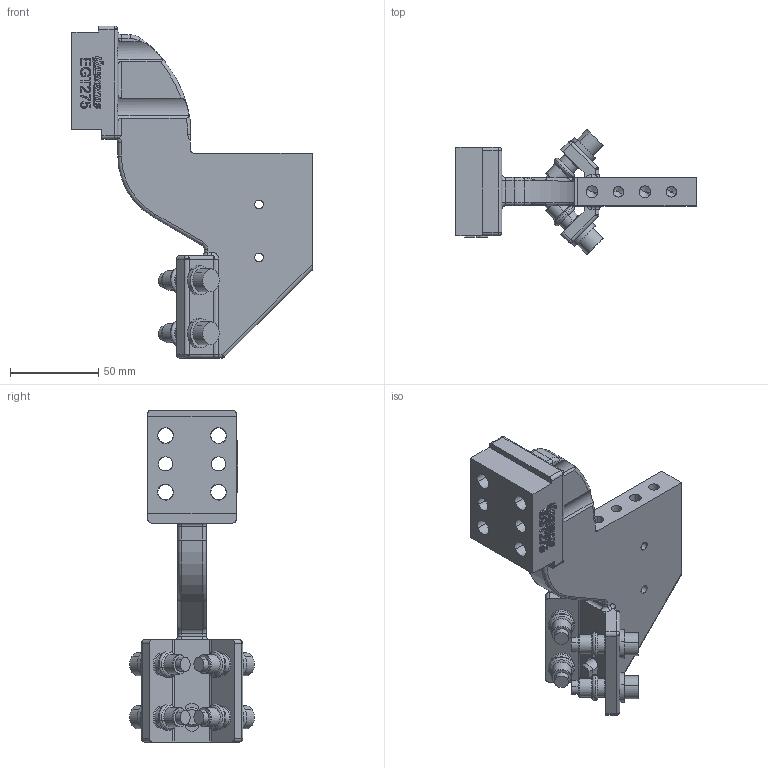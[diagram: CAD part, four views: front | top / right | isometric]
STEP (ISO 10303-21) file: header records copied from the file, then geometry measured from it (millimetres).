
FILE_DESCRIPTION(('CATIA V5 STEP Exchange'),'2;1');
FILE_NAME('\\Uns.com\share\技术部\03-技术资料\03-产品数模\02、抓具\STP\01-八角管抓具STP\连接件\EGT275.stp','2019-05-15T09:33:41+00:00',('none'),('none'),'CATIA Version 5 Release 21 GA (IN-10)','CATIA V5 STEP AP203','none');
FILE_SCHEMA(('CONFIG_CONTROL_DESIGN'));
Length unit declared in the file: millimetre
Products named in the file (1): EGT275
Bounding box: 136 x 70.68 x 188 mm (x, y, z)
Volume: 247538.6 mm3; surface area: 60564.2 mm2
Topology: 18 solids, 23 shells, 1136 faces, 3091 edges, 1991 vertices
Faces by surface type: plane 721, cylinder 202, extrusion 100, torus 49, cone 35, sphere 28, bspline 1
Entity records: 36988 total; most frequent: CARTESIAN_POINT 9492, ORIENTED_EDGE 6100, DIRECTION 4743, EDGE_CURVE 3050, VECTOR 2354, LINE 2254, VERTEX_POINT 1991, AXIS2_PLACEMENT_3D 1421
